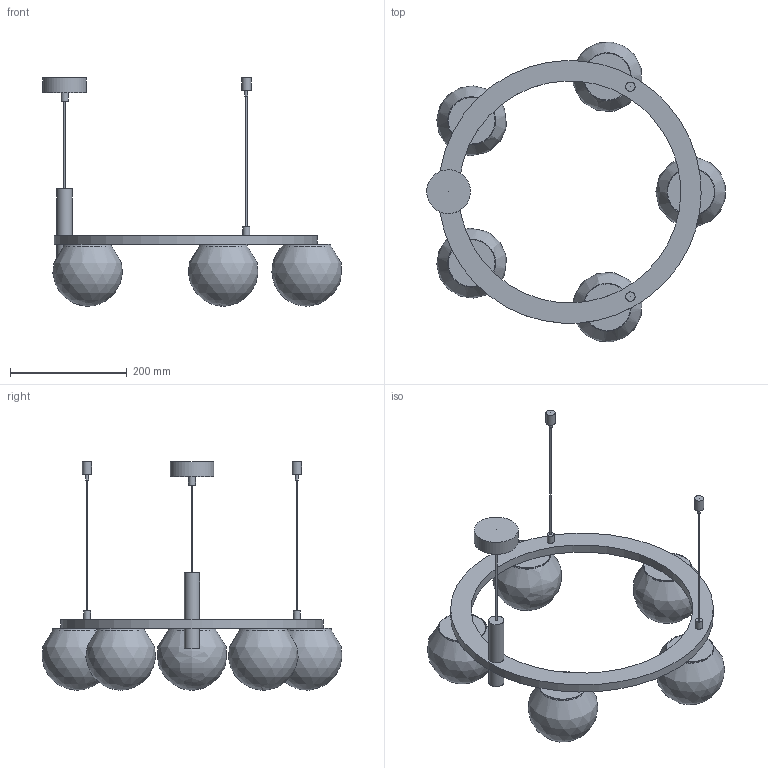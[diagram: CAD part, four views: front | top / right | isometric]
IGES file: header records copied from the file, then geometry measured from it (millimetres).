
Global section: file name: Z:\; native system: Rhinoceros ( Nov 10 2025 ); preprocessor: Trout Lake IGES 012 Nov 10 2025; date: 260624.022043; units: millimetre
Bounding box: 511.35 x 513.36 x 390.72 mm (x, y, z)
Surface area: 609701.9 mm2 (no closed solid volume)
Topology: 0 solids, 0 shells, 83 faces, 255 edges, 178 vertices
Faces by surface type: bspline 83
